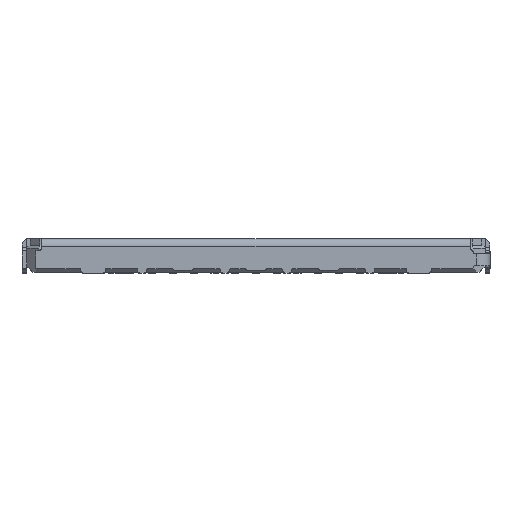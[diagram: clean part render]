
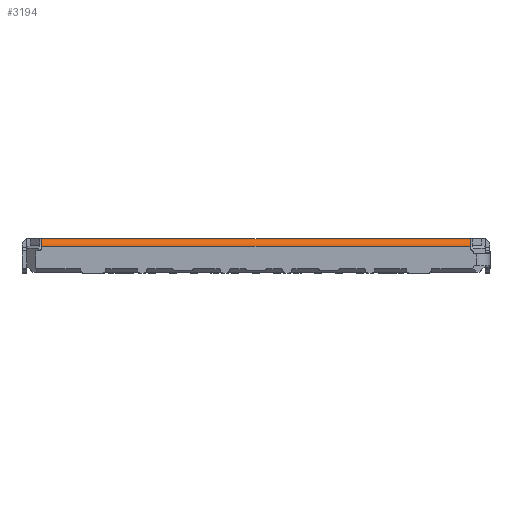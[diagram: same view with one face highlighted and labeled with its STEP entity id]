
A CAD part, top view. The second image highlights one B-rep face of the part: STEP entity #3194.
In plain terms, the highlighted cylindrical face has radius 0.13 mm (diameter 0.26 mm), a partial arc.
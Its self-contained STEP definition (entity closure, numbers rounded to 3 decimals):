
#405 = AXIS2_PLACEMENT_3D ( 'NONE', #2549, #8813, #1654 ) ;
#1150 = EDGE_CURVE ( 'NONE', #4132, #7376, #11742, .T. ) ;
#1160 = DIRECTION ( 'NONE',  ( -1., 0., 0. ) ) ;
#1416 = CARTESIAN_POINT ( 'NONE',  ( 0.175, 0.58, 1.5 ) ) ;
#1513 = DIRECTION ( 'NONE',  ( 0., 0., 1. ) ) ;
#1640 = CARTESIAN_POINT ( 'NONE',  ( -1.87, 0.45, 1.5 ) ) ;
#1654 = DIRECTION ( 'NONE',  ( 0., 0., 1. ) ) ;
#1797 = ORIENTED_EDGE ( 'NONE', *, *, #10401, .T. ) ;
#1898 = CARTESIAN_POINT ( 'NONE',  ( 5.37, 0.45, 1.63 ) ) ;
#2549 = CARTESIAN_POINT ( 'NONE',  ( 3.325, 0.45, 1.5 ) ) ;
#3041 = DIRECTION ( 'NONE',  ( 0., 0., 1. ) ) ;
#3158 = CARTESIAN_POINT ( 'NONE',  ( 0.175, 0.45, 1.63 ) ) ;
#3194 = ADVANCED_FACE ( 'NONE', ( #9791 ), #4658, .T. ) ;
#3290 = AXIS2_PLACEMENT_3D ( 'NONE', #13376, #12373, #3041 ) ;
#3762 = DIRECTION ( 'NONE',  ( -1., 0., 0. ) ) ;
#4115 = CIRCLE ( 'NONE', #9118, 0.13 ) ;
#4132 = VERTEX_POINT ( 'NONE', #1898 ) ;
#4156 = CIRCLE ( 'NONE', #3290, 0.13 ) ;
#4289 = CARTESIAN_POINT ( 'NONE',  ( 5.37, 0.58, 1.5 ) ) ;
#4391 = VERTEX_POINT ( 'NONE', #4289 ) ;
#4650 = ORIENTED_EDGE ( 'NONE', *, *, #1150, .F. ) ;
#4658 = CYLINDRICAL_SURFACE ( 'NONE', #405, 0.13 ) ;
#4783 = EDGE_CURVE ( 'NONE', #7376, #11654, #4115, .T. ) ;
#5803 = ORIENTED_EDGE ( 'NONE', *, *, #4783, .F. ) ;
#6545 = CARTESIAN_POINT ( 'NONE',  ( -1.87, 0.58, 1.5 ) ) ;
#7376 = VERTEX_POINT ( 'NONE', #13385 ) ;
#7542 = VECTOR ( 'NONE', #13205, 1000. ) ;
#7719 = EDGE_LOOP ( 'NONE', ( #8816, #1797, #5803, #4650 ) ) ;
#8813 = DIRECTION ( 'NONE',  ( 1., 0., 0. ) ) ;
#8816 = ORIENTED_EDGE ( 'NONE', *, *, #13479, .T. ) ;
#9118 = AXIS2_PLACEMENT_3D ( 'NONE', #1640, #3762, #1513 ) ;
#9791 = FACE_OUTER_BOUND ( 'NONE', #7719, .T. ) ;
#10401 = EDGE_CURVE ( 'NONE', #4391, #11654, #10703, .T. ) ;
#10703 = LINE ( 'NONE', #1416, #11888 ) ;
#11654 = VERTEX_POINT ( 'NONE', #6545 ) ;
#11742 = LINE ( 'NONE', #3158, #7542 ) ;
#11888 = VECTOR ( 'NONE', #1160, 1000. ) ;
#12373 = DIRECTION ( 'NONE',  ( -1., 0., 0. ) ) ;
#13205 = DIRECTION ( 'NONE',  ( -1., 0., 0. ) ) ;
#13376 = CARTESIAN_POINT ( 'NONE',  ( 5.37, 0.45, 1.5 ) ) ;
#13385 = CARTESIAN_POINT ( 'NONE',  ( -1.87, 0.45, 1.63 ) ) ;
#13479 = EDGE_CURVE ( 'NONE', #4132, #4391, #4156, .T. ) ;
